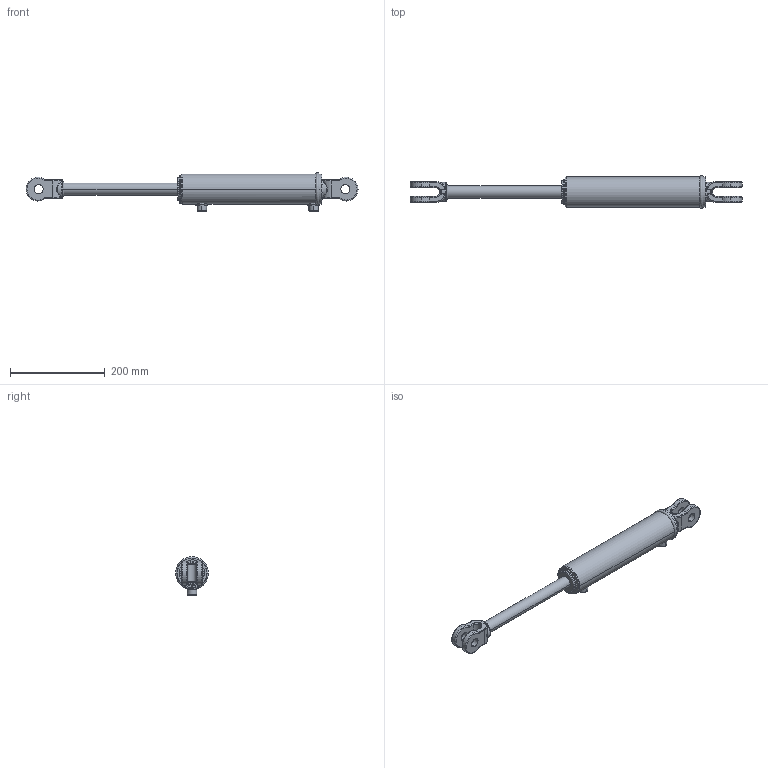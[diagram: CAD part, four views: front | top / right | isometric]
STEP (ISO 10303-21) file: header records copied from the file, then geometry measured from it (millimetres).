
FILE_DESCRIPTION (( 'STEP AP203' ), '1' );
FILE_NAME ('CL-CL200100x203 (8) extended.STEP', '2014-11-20T22:13:28', ( '' ), ( '' ), 'SwSTEP 2.0', 'SolidWorks 2014', '' );
FILE_SCHEMA (( 'CONFIG_CONTROL_DESIGN' ));
Length unit declared in the file: millimetre
Products named in the file (5): 8 SPARE; CL-CL200100x203 (8) extended; CL-CL150075x203 (8) BODY; 2 inch ext circlip; CL-CL200100x203 (8) BODY
Assembly tree (4 placements, depth 3):
  CL-CL200100x203 (8) extended
    CL-CL200100x203 (8) BODY
      CL-CL150075x203 (8) BODY
      2 inch ext circlip
    8 SPARE
Bounding box: 700.41 x 69.5 x 81.5 mm (x, y, z)
Volume: 1176573.6 mm3; surface area: 139537.6 mm2
Topology: 3 solids, 3 shells, 284 faces, 701 edges, 419 vertices
Faces by surface type: bspline 117, cylinder 108, plane 37, torus 14, cone 8
Entity records: 24865 total; most frequent: CARTESIAN_POINT 18431, ORIENTED_EDGE 1370, DIRECTION 1046, EDGE_CURVE 685, AXIS2_PLACEMENT_3D 435, VERTEX_POINT 419, EDGE_LOOP 308, FACE_OUTER_BOUND 284
